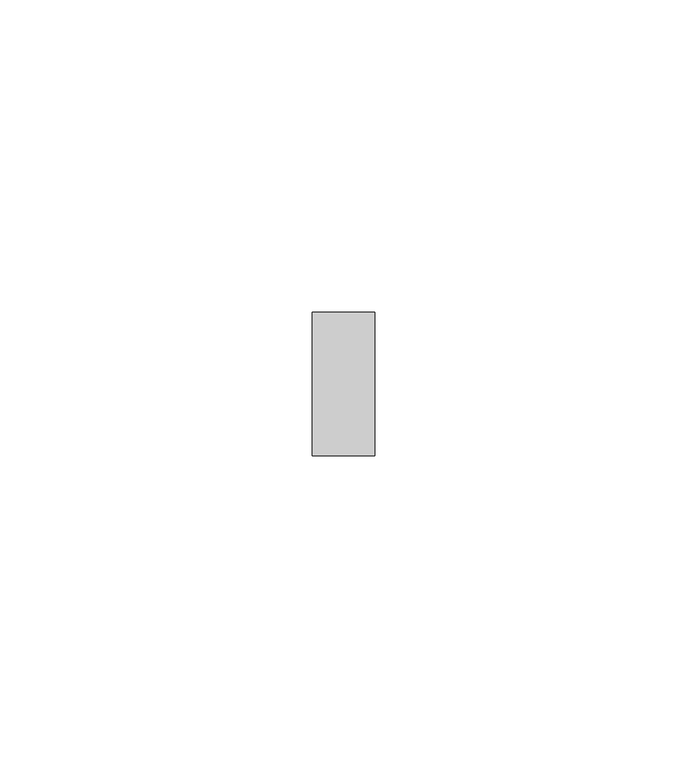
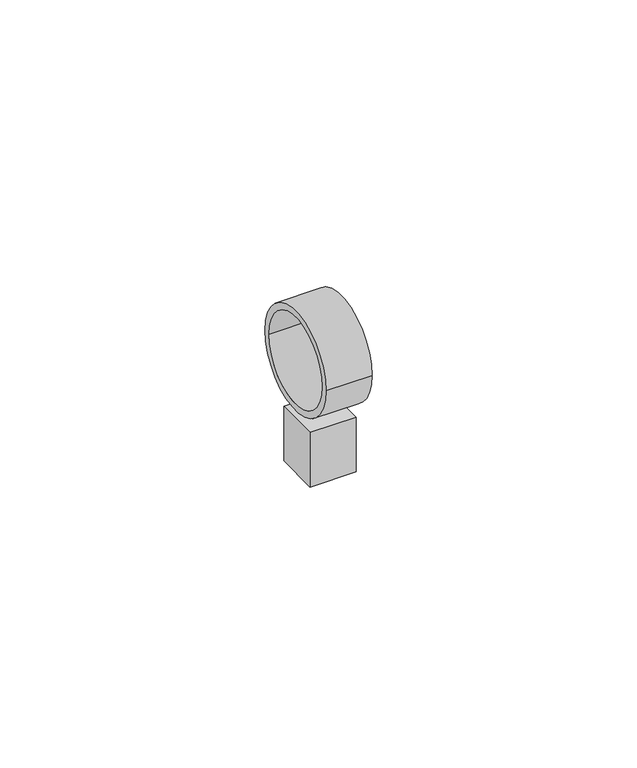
"""IFC4 building model written with IfcOpenShell, lengths in millimetres: cable carrier fitting geometry, Хомутный держатель со стяжкой CFF1 16-32 мм IEK : Хомутный держатель со стяжкой CFF1 16-32 мм IEK."""

from ifc_helpers import new_model, si_unit, point, frame, origin, origin_2d, place, context, project, spatial, polyline, circle_curve, trimmed, segment, composite_curve, outline, extrude, source, transform, mapped, element, save


def cable_carrier_fitting_1cabe774(model_context):
    return source(origin(), model_context, "Body", "SweptSolid", [
        extrude(outline(polyline([(5.0, 4.4195258), (5.0, -5.5240345), (-5.0, -5.5240345), (-5.0, 4.4195258), (5.0, 4.4195258)])), frame((0.0, 0.0, -25.78125), z_axis=(0.0, 0.0, 1.0), x_axis=(1.0, 0.0, 0.0)), (0.0, 0.0, 1.0), 12.6113362),
        extrude(outline(composite_curve([segment(trimmed(circle_curve(origin_2d(), 11.5), [point((-11.5, 0.0))], [point((11.5, 0.0))], False, "CARTESIAN"), True, "CONTINUOUS"), segment(trimmed(circle_curve(origin_2d(), 11.5), [point((11.5, 0.0))], [point((-11.5, 0.0))], False, "CARTESIAN"), True, "CONTINUOUS")], self_intersect=False), holes=[composite_curve([segment(trimmed(circle_curve(origin_2d(), 10.0), [point((-10.0, 0.0))], [point((10.0, 0.0))], True, "CARTESIAN"), True, "CONTINUOUS"), segment(trimmed(circle_curve(origin_2d(), 10.0), [point((10.0, 0.0))], [point((-10.0, 0.0))], True, "CARTESIAN"), True, "CONTINUOUS")], self_intersect=False)]), frame((-5.0, 0.0, 0.0), z_axis=(1.0, 0.0, 0.0), x_axis=(0.0, 1.0, 0.0)), (0.0, 0.0, 1.0), 10.0),
    ])


if __name__ == "__main__":
    model = new_model("IFC4")
    model_context = context("Model", 3, world=origin())
    ifc_project = project(units=[si_unit("LENGTHUNIT", "METRE", prefix="MILLI")], contexts=[model_context])
    site = spatial("IfcSite", under=ifc_project)
    building = spatial("IfcBuilding", under=site)
    placement = place(None, origin())
    cable_carrier_fitting_shape = cable_carrier_fitting_1cabe774(model_context)
    element("IfcCableCarrierFitting", 1, ObjectType="Хомутный держатель со стяжкой CFF1 16-32 мм IEK : Хомутный держатель со стяжкой CFF1 16-32 мм IEK", at=placement, inside=building, context=model_context, shape_type="MappedRepresentation", body=[
        mapped(cable_carrier_fitting_shape, transform((0.0, 0.0, 0.0), x_axis=(1.0, 0.0, 0.0), y_axis=(0.0, 1.0, 0.0), z_axis=(0.0, 0.0, 1.0))),
    ])
    save(model, "model.ifc")
